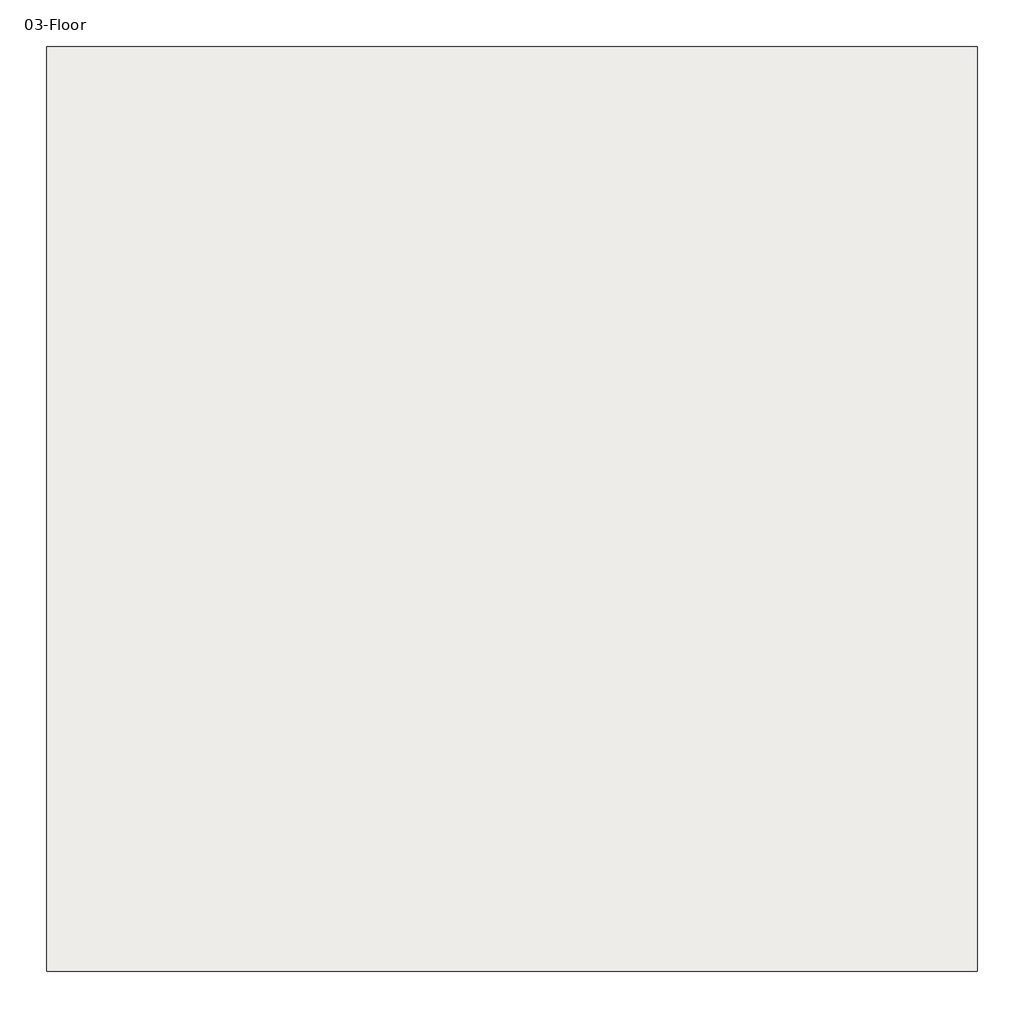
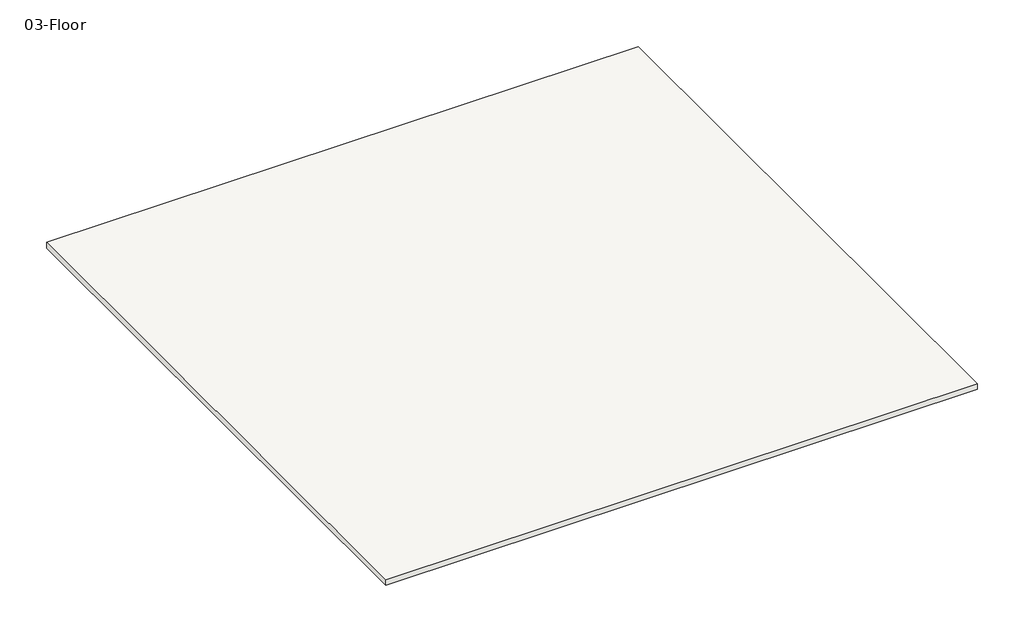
# One storey: 1 slab.
"""IFC4 building model written with IfcOpenShell, lengths in millimetres."""

import ifcopenshell
import ifcopenshell.guid

model = None  # the IFC model being written
_history = None  # IfcOwnerHistory: only IFC2X3 demands one
_inside = {}  # id of a spatial element -> (the spatial element, [elements in it])
_under = {}  # id of a project, library or spatial element -> (it, [spatial elements below it])
_declared = {}  # id of a project -> (the project, [libraries it declares])
_typed = {}  # id of a type object -> (the type object, [elements of that type])
_made_of = {}  # id of a material, layer set ... -> (it, [elements and type objects made of it])


def new_model(schema):
    """Start an empty IFC model of exactly this schema.

    Asked for "IFC4X3", IfcOpenShell would pick the latest addendum, in which some entities
    have other attributes; the version numbers below select the first issue.
    IFC2X3 requires an IfcOwnerHistory on every rooted entity: one is made here for all.
    """
    global model, _history
    if schema == "IFC4X3":
        model = ifcopenshell.file(schema_version=(4, 3, 0, 0))
    else:
        model = ifcopenshell.file(schema=schema)
    _inside.clear()
    _under.clear()
    _declared.clear()
    _typed.clear()
    _made_of.clear()
    _history = None
    if model.schema == "IFC2X3":
        org = make("IfcOrganization", Name="unknown")
        user = make(
            "IfcPersonAndOrganization",
            ThePerson=make("IfcPerson", FamilyName="unknown"),
            TheOrganization=org,
        )
        app = make(
            "IfcApplication",
            ApplicationDeveloper=org,
            Version="unknown",
            ApplicationFullName="unknown",
            ApplicationIdentifier="unknown",
        )
        _history = make(
            "IfcOwnerHistory",
            OwningUser=user,
            OwningApplication=app,
            ChangeAction="ADDED",
            CreationDate=0,
        )
    return model


def make(cls, **values):
    """One entity of the class cls with the attributes given. An attribute that is None is left unset."""
    return model.create_entity(
        cls, **{name: value for name, value in values.items() if value is not None}
    )


def rooted(cls, **values):
    """An entity with a GlobalId (a new one), such as an element, a storey or a relation."""
    return make(cls, GlobalId=ifcopenshell.guid.new(), OwnerHistory=_history, **values)


def si_unit(unit_type, name, prefix=None):
    """IfcSIUnit, for example si_unit("LENGTHUNIT", "METRE", prefix="MILLI")."""
    return make("IfcSIUnit", UnitType=unit_type, Prefix=prefix, Name=name)


def assignment(units):
    """IfcUnitAssignment: the units of a project."""
    return None if units is None else make("IfcUnitAssignment", Units=units)


def point(xyz):
    """IfcCartesianPoint."""
    return None if xyz is None else make("IfcCartesianPoint", Coordinates=xyz)


def direction(xyz):
    """IfcDirection."""
    return None if xyz is None else make("IfcDirection", DirectionRatios=xyz)


def frame(location, z_axis=None, x_axis=None):
    """IfcAxis2Placement3D, a coordinate frame: its origin and axes. An axis left out is left unset."""
    return make(
        "IfcAxis2Placement3D",
        Location=point(location),
        Axis=direction(z_axis),
        RefDirection=direction(x_axis),
    )


def origin():
    """The frame at (0, 0, 0) with its axes left unset."""
    return frame((0.0, 0.0, 0.0))


def place(relative_to, where):
    """IfcLocalPlacement: puts the frame where relative to a parent placement (None: the world)."""
    return make(
        "IfcLocalPlacement", PlacementRelTo=relative_to, RelativePlacement=where
    )


def context(
    kind, dimensions, precision=None, world=None, true_north=None, identifier=None
):
    """IfcGeometricRepresentationContext, for example the 3D "Model" context."""
    return make(
        "IfcGeometricRepresentationContext",
        ContextIdentifier=identifier,
        ContextType=kind,
        CoordinateSpaceDimension=dimensions,
        Precision=precision,
        WorldCoordinateSystem=world,
        TrueNorth=true_north,
    )


def project(units=None, contexts=None):
    """IfcProject with its units and contexts."""
    return rooted(
        "IfcProject",
        Name="project",
        RepresentationContexts=contexts,
        UnitsInContext=assignment(units),
    )


def spatial(cls, under=None, at=None, **own):
    """A site, building, storey or space (cls), placed at a placement, below another one or the project."""
    s = rooted(cls, ObjectPlacement=at, **own)
    if under is not None:
        _under.setdefault(under.id(), (under, []))[1].append(s)
    return s


def faces_of(points, faces, orient=None, outer=None):
    """IfcFace entities. A face is a list of loops; a loop is a list of indices into points, from 0.

    orient and outer hold one flag for each loop. By default every Orientation is true, the
    first loop of a face is its IfcFaceOuterBound and the others are IfcFaceBound.
    """
    made = []
    for i, loops in enumerate(faces):
        bounds = []
        for j, loop in enumerate(loops):
            is_outer = j == 0 if outer is None else outer[i][j]
            bounds.append(
                make(
                    "IfcFaceOuterBound" if is_outer else "IfcFaceBound",
                    Bound=make("IfcPolyLoop", Polygon=[points[k] for k in loop]),
                    Orientation=True if orient is None else orient[i][j],
                )
            )
        made.append(make("IfcFace", Bounds=bounds))
    return made


def faceted_brep(points, faces, orient=None, outer=None, voids=None):
    """IfcFacetedBrep: a solid bounded by flat faces; with voids (closed shells), ...WithVoids."""
    shared = [point(p) for p in points]
    hull = make("IfcClosedShell", CfsFaces=faces_of(shared, faces, orient, outer))
    if voids is None:
        return make("IfcFacetedBrep", Outer=hull)
    return make(
        "IfcFacetedBrepWithVoids",
        Outer=hull,
        Voids=[
            make(cls, CfsFaces=faces_of(shared, fs, o, b)) for cls, fs, o, b in voids
        ],
    )


def shape(context_of_items, identifier, shape_type, items):
    """IfcShapeRepresentation: the items that make up one representation, for example the "Body"."""
    return make(
        "IfcShapeRepresentation",
        ContextOfItems=context_of_items,
        RepresentationIdentifier=identifier,
        RepresentationType=shape_type,
        Items=items,
    )


def made_of(thing, what):
    """Note that an element or type object is made of a material, layer set ...; save() writes the relation."""
    if what is not None:
        _made_of.setdefault(what.id(), (what, []))[1].append(thing)
    return thing


def element(
    cls,
    number,
    at=None,
    inside=None,
    cuts=None,
    type_object=None,
    material=None,
    context=None,
    identifier="Body",
    shape_type=None,
    held_by="IfcProductDefinitionShape",
    body=None,
    shapes=None,
    **own,
):
    """One element of the class cls, such as IfcWall. Its Tag is "e" and its number.

    at: its placement. inside: the storey or other place that contains it. cuts: it is an
    opening in that element (IfcRelVoidsElement). A single representation is given by context,
    identifier, shape_type and body (its items); several are given by shapes. held_by: the class
    of the entity that holds the representations. save() writes the other relations.
    """
    e = rooted(cls, Tag="e%d" % number, ObjectPlacement=at, **own)
    if body is not None:
        shapes = [shape(context, identifier, shape_type, body)]
    if shapes is not None:
        e.Representation = make(held_by, Representations=shapes)
    if inside is not None:
        _inside.setdefault(inside.id(), (inside, []))[1].append(e)
    if cuts is not None:
        rooted(
            "IfcRelVoidsElement", RelatingBuildingElement=cuts, RelatedOpeningElement=e
        )
    if type_object is not None:
        _typed.setdefault(type_object.id(), (type_object, []))[1].append(e)
    return made_of(e, material)


def aggregate(whole, parts):
    """IfcRelAggregates: a whole, such as a stair, and the parts it consists of."""
    return rooted("IfcRelAggregates", RelatingObject=whole, RelatedObjects=parts)


def save(model, path):
    """Write the relations noted so far, then the file.

    IfcRelAggregates (storeys below a building ...), IfcRelContainedInSpatialStructure (elements
    in a storey), IfcRelDefinesByType, IfcRelAssociatesMaterial and IfcRelDeclares: one each for
    every whole, place, type object, material and project.
    """
    for whole, parts in _under.values():
        aggregate(whole, parts)
    for where, things in _inside.values():
        rooted(
            "IfcRelContainedInSpatialStructure",
            RelatedElements=things,
            RelatingStructure=where,
        )
    for kind, things in _typed.values():
        rooted("IfcRelDefinesByType", RelatedObjects=things, RelatingType=kind)
    for what, things in _made_of.values():
        rooted("IfcRelAssociatesMaterial", RelatedObjects=things, RelatingMaterial=what)
    for by, libraries in _declared.values():
        rooted("IfcRelDeclares", RelatingContext=by, RelatedDefinitions=libraries)
    model.write(path)


model = new_model("IFC4")

# Units and contexts
model_context = context("Model", 3, world=origin())
ifc_project = project(units=[si_unit("LENGTHUNIT", "METRE", prefix="MILLI")], contexts=[model_context])

# Site, building, storey
site = spatial("IfcSite", under=ifc_project)
building = spatial("IfcBuilding", under=site)
storey = spatial("IfcBuildingStorey", under=building, Name="03-Floor", Elevation=7315.2)

# Slab
placement = place(None, origin())
element("IfcSlab", 1, ObjectType="3\" LW Concrete on 2\" Metal Deck", at=placement, inside=storey, context=model_context, shape_type="Brep", body=[
    faceted_brep([(-10195.4983314, 11281.7050815, 7188.2), (-10195.4983314, 11129.3050815, 7188.2), (-10195.4983314, -1078.135408, 7188.2), (-22637.1920692, -1078.135408, 7188.2), (-22637.1920692, 11129.3050815, 7188.2), (-22637.1920692, 11281.7050815, 7188.2), (-10195.4983314, 11281.7050815, 7315.2), (-22637.1920692, 11281.7050815, 7315.2), (-22637.1920692, -1078.135408, 7315.2), (-10195.4983314, -1078.135408, 7315.2)], [[[0, 1, 2, 3, 4, 5]], [[6, 7, 8, 9]], [[2, 1, 0, 6, 9]], [[3, 2, 9, 8]], [[5, 4, 3, 8, 7]], [[0, 5, 7, 6]]]),
])

save(model, "model.ifc")
